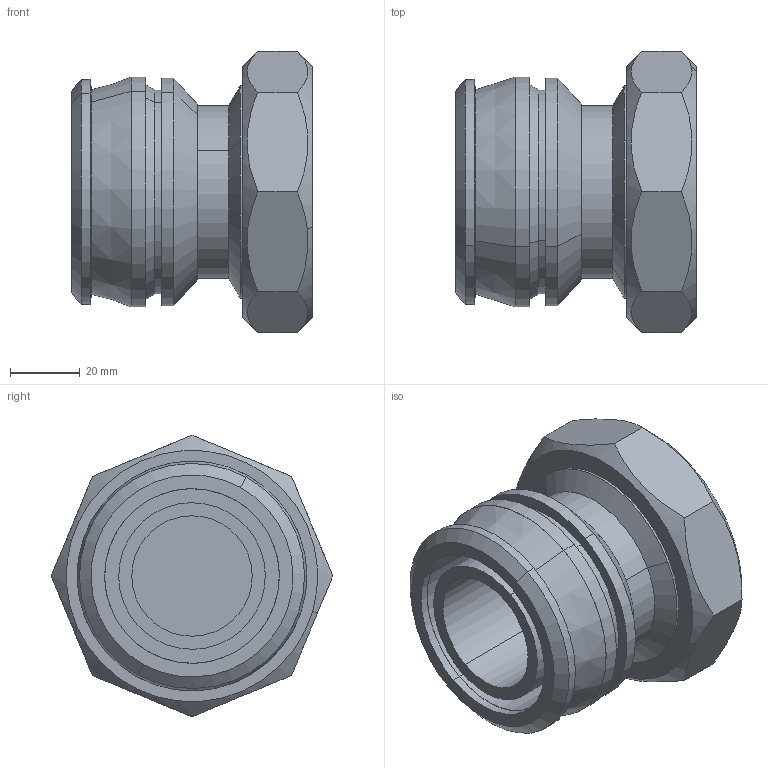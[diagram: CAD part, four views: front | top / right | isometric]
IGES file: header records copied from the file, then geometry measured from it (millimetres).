
Start section: 3D InterOp IGES (Version 25 0 1), Spatial Corp. Copyright (c) 1999-2007.
Global section: file name: pim0006817.igs; native system: Spatial Corp.; preprocessor: 3D InterOp ACIS/IGES; author: CAD-PIM; organization: TransMagic, Inc.; date: 20150618.152231; units: millimetre
Bounding box: 69 x 80.64 x 80.64 mm (x, y, z)
Volume: 149325.8 mm3; surface area: 37683.3 mm2
Topology: 1 solids, 1 shells, 60 faces, 157 edges, 109 vertices
Faces by surface type: cylinder 20, plane 20, cone 10, bspline 10
